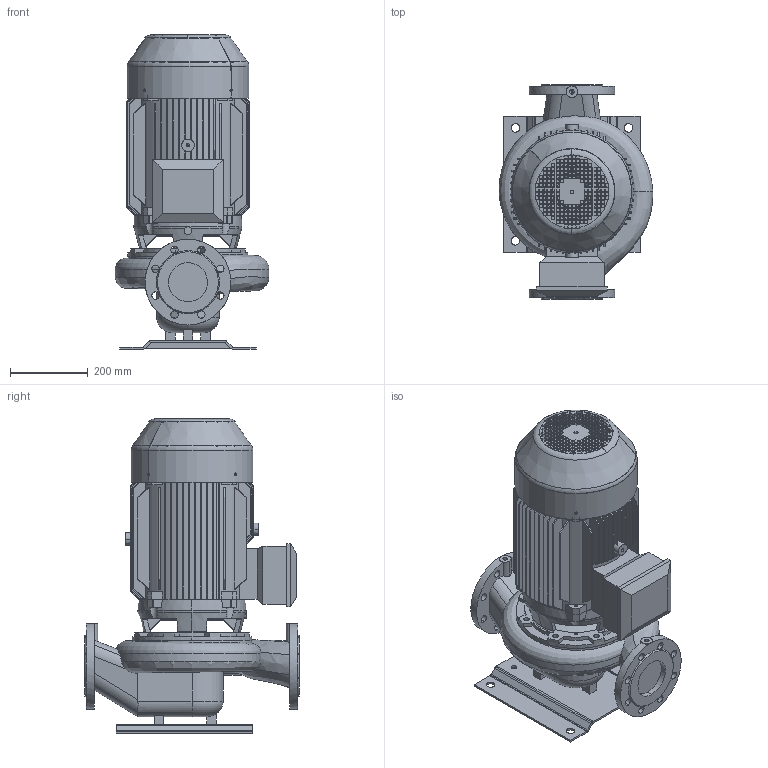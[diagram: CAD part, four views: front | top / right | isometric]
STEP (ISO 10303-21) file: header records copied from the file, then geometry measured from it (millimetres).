
FILE_DESCRIPTION(('STEP AP214'),'1');
FILE_NAME('export.stp','2018-05-28T09:44:10',(' '),(' '),'Spatial InterOp 3D',' ',' ');
FILE_SCHEMA(('AUTOMOTIVE_DESIGN { 1 0 10303 214 1 1 1 1 }'));
Length unit declared in the file: millimetre
Products named in the file (11): W_AKN1002110KP165; V_TLAKN100127; V_PPAKN100; P100496; P100495; P100342; V_MKP-165-E1_N26; R200574; R200573; R200587; R200960
Assembly tree (11 placements, depth 3):
  W_AKN1002110KP165
    V_TLAKN100127
    V_PPAKN100
    P100496
      P100495  x2
      P100342
    V_MKP-165-E1_N26
      R200574
      R200573
      R200587
      R200960
Bounding box: 395.1 x 550 x 808 mm (x, y, z)
Volume: 25548029.8 mm3; surface area: 3286107.9 mm2
Topology: 9 solids, 9 shells, 1824 faces, 5270 edges, 3443 vertices
Faces by surface type: plane 1201, cylinder 355, cone 156, torus 72, bspline 40
Entity records: 83354 total; most frequent: CARTESIAN_POINT 18550, ORIENTED_EDGE 10496, DIRECTION 9176, EDGE_CURVE 5248, VERTEX_POINT 3435, LINE 3434, VECTOR 3434, AXIS2_PLACEMENT_3D 2871
